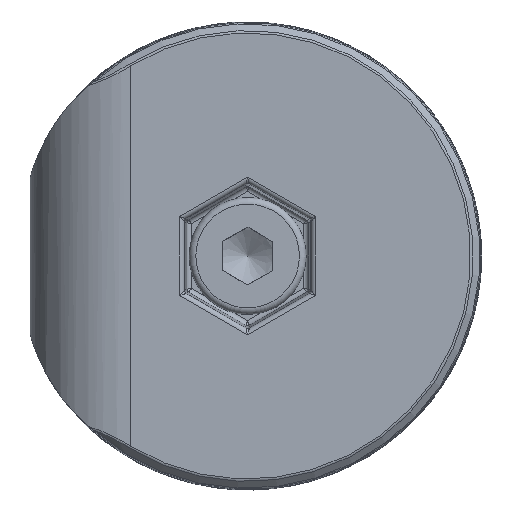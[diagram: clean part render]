
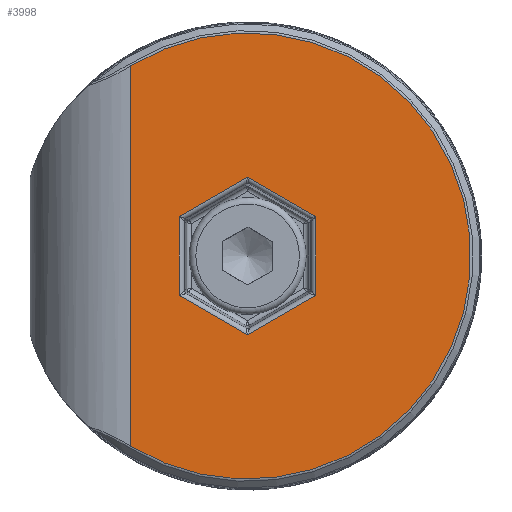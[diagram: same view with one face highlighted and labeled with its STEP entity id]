
A CAD part, front view. The second image highlights one B-rep face of the part: STEP entity #3998.
In plain terms, the highlighted planar face has unit normal (0, -1, 0).
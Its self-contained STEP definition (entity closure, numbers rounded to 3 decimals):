
#384=FACE_BOUND('',#1007,.T.);
#429=PLANE('',#4456);
#726=FACE_OUTER_BOUND('',#1006,.T.);
#1006=EDGE_LOOP('',(#3549,#3550));
#1007=EDGE_LOOP('',(#3551,#3552,#3553,#3554,#3555,#3556));
#1143=LINE('',#8035,#1296);
#1186=LINE('',#9477,#1339);
#1187=LINE('',#9478,#1340);
#1188=LINE('',#9479,#1341);
#1189=LINE('',#9480,#1342);
#1190=LINE('',#9481,#1343);
#1191=LINE('',#9482,#1344);
#1296=VECTOR('',#5150,10.);
#1339=VECTOR('',#5443,10.);
#1340=VECTOR('',#5444,10.);
#1341=VECTOR('',#5445,10.);
#1342=VECTOR('',#5446,10.);
#1343=VECTOR('',#5447,10.);
#1344=VECTOR('',#5448,10.);
#1489=CIRCLE('',#4328,13.345);
#1786=VERTEX_POINT('',#7880);
#1793=VERTEX_POINT('',#7940);
#1858=VERTEX_POINT('',#8967);
#1867=VERTEX_POINT('',#9035);
#1873=VERTEX_POINT('',#9095);
#1879=VERTEX_POINT('',#9155);
#1885=VERTEX_POINT('',#9215);
#1888=VERTEX_POINT('',#9270);
#2285=EDGE_CURVE('',#1786,#1793,#1489,.T.);
#2296=EDGE_CURVE('',#1786,#1793,#1143,.T.);
#2471=EDGE_CURVE('',#1867,#1873,#1186,.T.);
#2472=EDGE_CURVE('',#1858,#1867,#1187,.T.);
#2473=EDGE_CURVE('',#1888,#1858,#1188,.T.);
#2474=EDGE_CURVE('',#1885,#1888,#1189,.T.);
#2475=EDGE_CURVE('',#1879,#1885,#1190,.T.);
#2476=EDGE_CURVE('',#1873,#1879,#1191,.T.);
#3549=ORIENTED_EDGE('',*,*,#2285,.F.);
#3550=ORIENTED_EDGE('',*,*,#2296,.T.);
#3551=ORIENTED_EDGE('',*,*,#2471,.F.);
#3552=ORIENTED_EDGE('',*,*,#2472,.F.);
#3553=ORIENTED_EDGE('',*,*,#2473,.F.);
#3554=ORIENTED_EDGE('',*,*,#2474,.F.);
#3555=ORIENTED_EDGE('',*,*,#2475,.F.);
#3556=ORIENTED_EDGE('',*,*,#2476,.F.);
#3998=ADVANCED_FACE('',(#726,#384),#429,.T.);
#4328=AXIS2_PLACEMENT_3D('',#7944,#5141,#5142);
#4456=AXIS2_PLACEMENT_3D('',#9476,#5441,#5442);
#5141=DIRECTION('center_axis',(0.,1.,0.));
#5142=DIRECTION('ref_axis',(1.,0.,0.));
#5150=DIRECTION('',(0.,0.,-1.));
#5441=DIRECTION('center_axis',(0.,-1.,0.));
#5442=DIRECTION('ref_axis',(0.,0.,1.));
#5443=DIRECTION('',(0.,0.,1.));
#5444=DIRECTION('',(0.866,0.,0.5));
#5445=DIRECTION('',(0.866,0.,-0.5));
#5446=DIRECTION('',(0.,0.,-1.));
#5447=DIRECTION('',(-0.866,0.,-0.5));
#5448=DIRECTION('',(-0.866,0.,0.5));
#7880=CARTESIAN_POINT('',(0.,-6.,11.362));
#7940=CARTESIAN_POINT('',(0.,-6.,-11.362));
#7944=CARTESIAN_POINT('Origin',(7.,-6.,0.));
#8035=CARTESIAN_POINT('',(0.,-6.,0.));
#8967=CARTESIAN_POINT('',(7.,-6.,-4.719));
#9035=CARTESIAN_POINT('',(11.087,-6.,-2.36));
#9095=CARTESIAN_POINT('',(11.087,-6.,2.36));
#9155=CARTESIAN_POINT('',(7.,-6.,4.72));
#9215=CARTESIAN_POINT('',(2.913,-6.,2.36));
#9270=CARTESIAN_POINT('',(2.913,-6.,-2.36));
#9476=CARTESIAN_POINT('Origin',(9.1,-6.,0.));
#9477=CARTESIAN_POINT('',(11.087,-6.,-1.097));
#9478=CARTESIAN_POINT('',(8.881,-6.,-3.633));
#9479=CARTESIAN_POINT('',(4.794,-6.,-3.446));
#9480=CARTESIAN_POINT('',(2.913,-6.,1.097));
#9481=CARTESIAN_POINT('',(6.694,-6.,4.543));
#9482=CARTESIAN_POINT('',(10.781,-6.,2.537));
